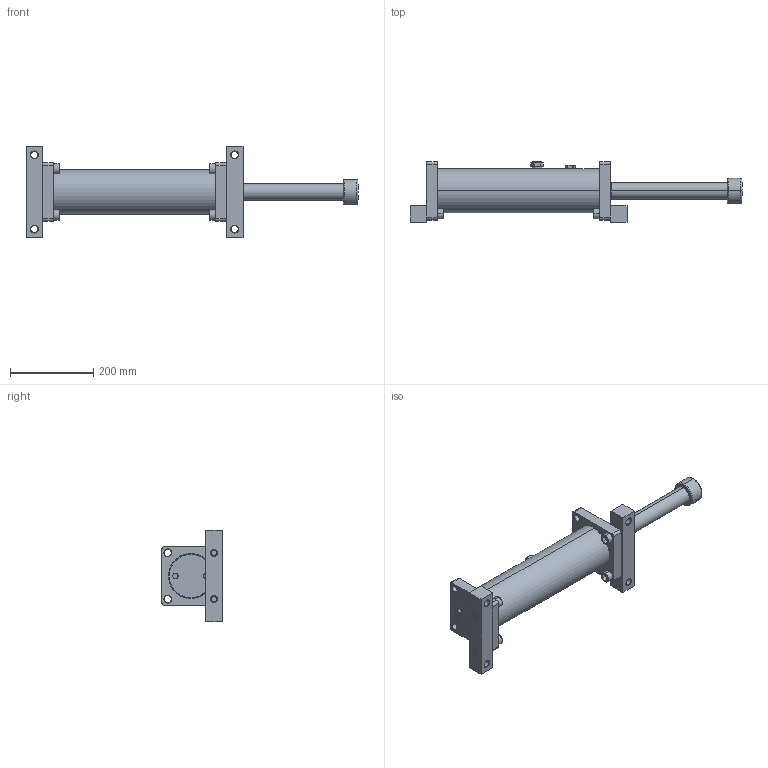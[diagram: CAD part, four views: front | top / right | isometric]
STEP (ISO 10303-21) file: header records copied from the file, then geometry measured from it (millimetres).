
FILE_DESCRIPTION (( 'STEP AP214' ), '1' );
FILE_NAME ('LDD2.0X10.STEP', '2019-01-16T06:04:41', ( 'user' ), ( 'Microsoft' ), 'SwSTEP 2.0', 'SolidWorks 2016', '' );
FILE_SCHEMA (( 'AUTOMOTIVE_DESIGN' ));
Length unit declared in the file: inch
Products named in the file (1): LDD2.0X10
Bounding box: 797 x 145.5 x 220 mm (x, y, z)
Surface area: 400882.3 mm2 (no closed solid volume)
Topology: 0 solids, 25 shells, 267 faces, 708 edges, 475 vertices
Faces by surface type: plane 99, cylinder 79, cone 59, bspline 30
Entity records: 14286 total; most frequent: CARTESIAN_POINT 7718, DIRECTION 1376, ORIENTED_EDGE 1263, EDGE_CURVE 708, AXIS2_PLACEMENT_3D 536, VERTEX_POINT 475, EDGE_LOOP 326, VECTOR 304
